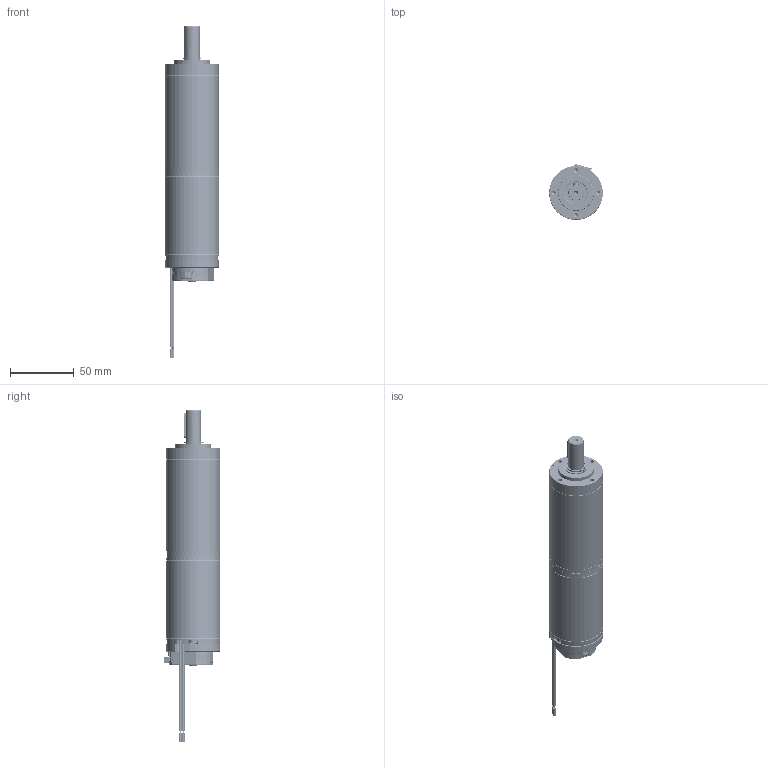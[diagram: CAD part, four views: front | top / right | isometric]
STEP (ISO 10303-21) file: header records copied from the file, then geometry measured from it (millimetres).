
FILE_DESCRIPTION (( 'STEP AP214' ), '1' );
FILE_NAME ('BRx42-25-PGx42 (4 Stage) - Diff Encoder.STEP', '2025-05-13T07:10:03', ( '' ), ( '' ), 'SwSTEP 2.0', 'SolidWorks 2023', '' );
FILE_SCHEMA (( 'AUTOMOTIVE_DESIGN' ));
Length unit declared in the file: millimetre
Products named in the file (1): BRx42-25-PGx42 (4 Stage) - Diff Encoder
Bounding box: 42 x 43.94 x 259.85 mm (x, y, z)
Volume: 163300.5 mm3; surface area: 69962.1 mm2
Topology: 27 solids, 27 shells, 7876 faces, 20902 edges, 13758 vertices
Faces by surface type: plane 5161, cylinder 1760, cone 496, bspline 227, torus 216, sphere 16
Entity records: 342928 total; most frequent: CARTESIAN_POINT 58618, ORIENTED_EDGE 41770, DIRECTION 39708, EDGE_CURVE 20885, VECTOR 14778, LINE 14778, VERTEX_POINT 13758, AXIS2_PLACEMENT_3D 12465
